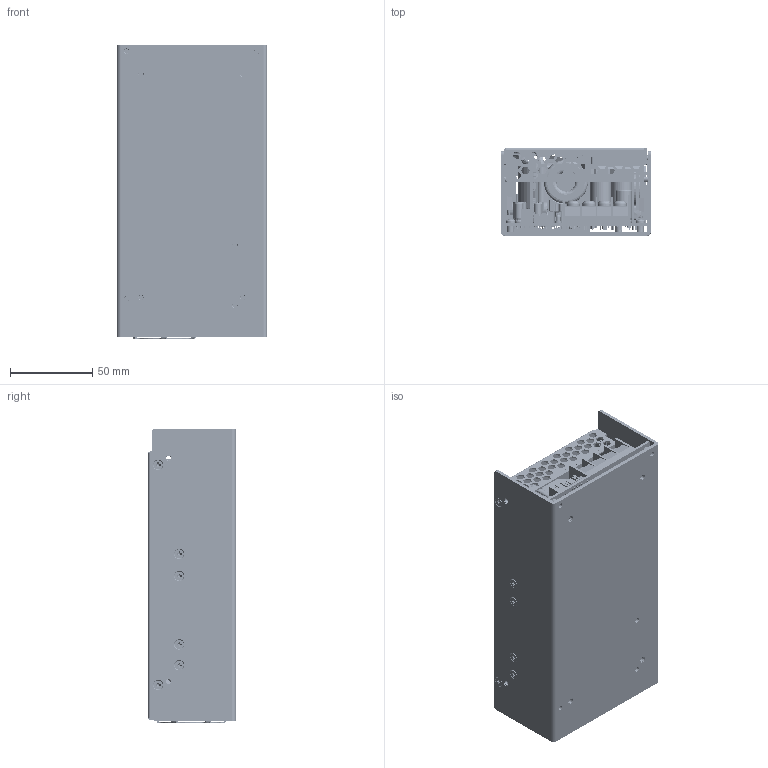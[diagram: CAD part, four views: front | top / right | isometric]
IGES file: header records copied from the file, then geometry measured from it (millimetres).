
Start section: SolidWorks IGES file using analytic representation for surfaces
Global section: file name: C:\RnD\PRODUCT\SHP350\SW\3D MODEL REV A\SHP350 FA ASSY.IGS; native system: SolidWorks 2011; preprocessor: SolidWorks 2011; author: Leonard Torio; date: 110906.110823; units: millimetre
Bounding box: 91.54 x 53.34 x 179.3 mm (x, y, z)
Surface area: 330917.4 mm2 (no closed solid volume)
Topology: 0 solids, 0 shells, 7799 faces, 78951 edges, 78844 vertices
Faces by surface type: bspline 4760, revolution 3039
